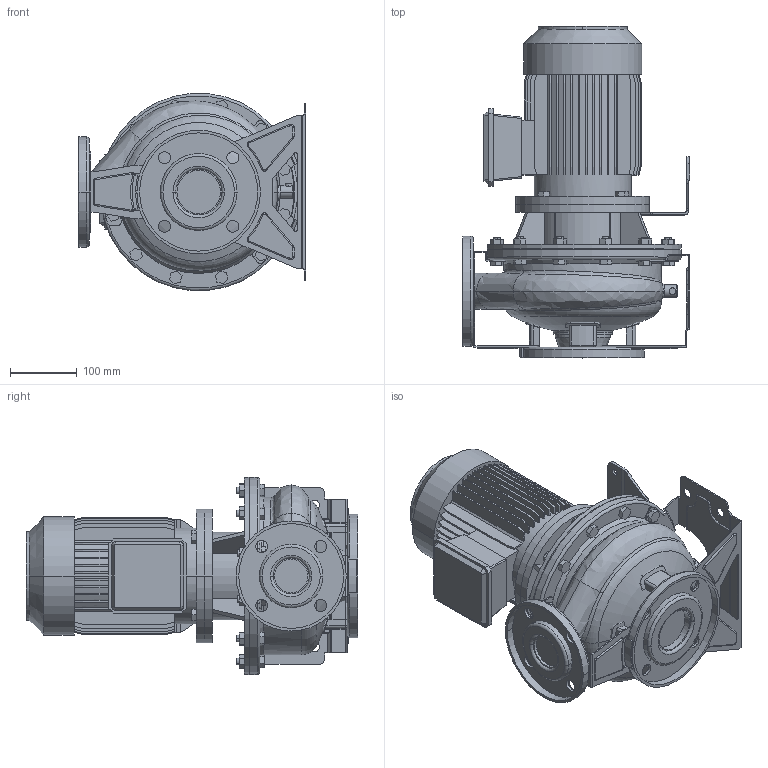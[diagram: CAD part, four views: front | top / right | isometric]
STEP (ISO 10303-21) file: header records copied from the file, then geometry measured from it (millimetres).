
FILE_DESCRIPTION((''),'2;1');
FILE_NAME('3S4_50-160_1_1_IE3_ASM','2016-09-23T',('rosa'),('"Ebara Pumps Europe +39.444.706811"'),'PRO/ENGINEER BY PARAMETRIC TECHNOLOGY CORPORATION, 2012130','PRO/ENGINEER BY PARAMETRIC TECHNOLOGY CORPORATION, 2012130','');
FILE_SCHEMA(('AUTOMOTIVE_DESIGN { 1 0 10303 214 1 1 1 1 }'));
Length unit declared in the file: millimetre
Products named in the file (11): MOTORE_90_1_1-1_5_KW_4POLI_B5; SUPPORTO_3S_230_90; SOSTEGNO_3S_72020; CORPO_50-160_AF0; ASP_50-160; FLANGIA_DIN_65; MAND_50-160; FLANGIA_DIN_50; BASE_3M_50-160; CORPO_SALDATO_50-160_ASM; 3S4_50-160_1_1_IE3_ASM
Assembly tree (10 placements, depth 3):
  3S4_50-160_1_1_IE3_ASM
    MOTORE_90_1_1-1_5_KW_4POLI_B5
    SUPPORTO_3S_230_90
    SOSTEGNO_3S_72020
    CORPO_SALDATO_50-160_ASM
      CORPO_50-160_AF0
      ASP_50-160
      FLANGIA_DIN_65
      MAND_50-160
      FLANGIA_DIN_50
      BASE_3M_50-160
Bounding box: 340 x 497 x 295.13 mm (x, y, z)
Volume: 12991834.2 mm3; surface area: 1351180.2 mm2
Topology: 12 solids, 12 shells, 1143 faces, 2936 edges, 1930 vertices
Faces by surface type: plane 716, cylinder 310, torus 54, bspline 33, cone 24, sphere 6
Entity records: 48774 total; most frequent: CARTESIAN_POINT 9608, DIRECTION 5989, ORIENTED_EDGE 5872, EDGE_CURVE 2936, PRESENTATION_STYLE_ASSIGNMENT 2807, STYLED_ITEM 2807, CURVE_STYLE 2796, AXIS2_PLACEMENT_3D 2018
